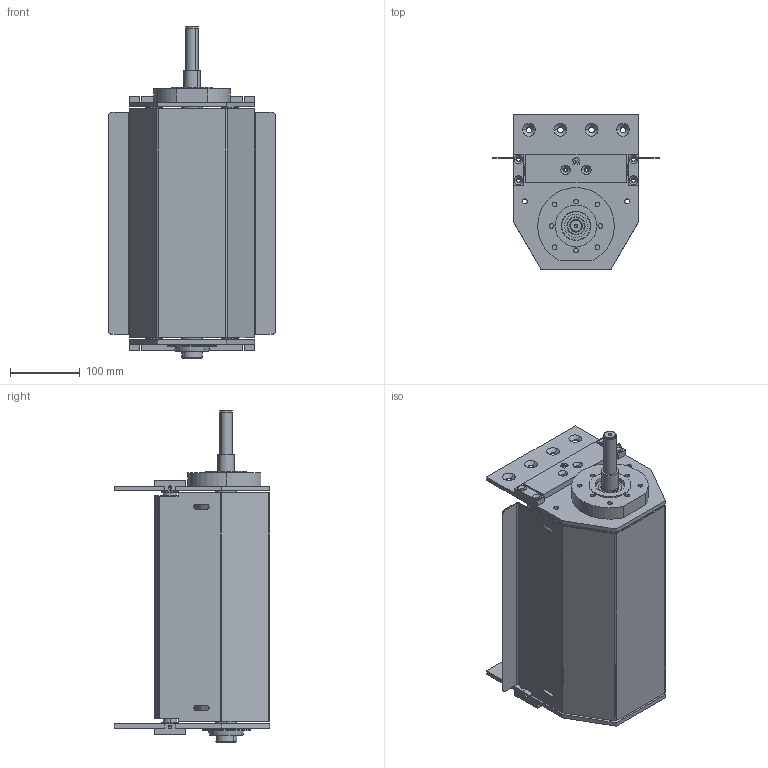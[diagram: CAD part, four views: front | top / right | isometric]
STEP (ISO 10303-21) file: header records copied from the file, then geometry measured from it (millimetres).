
FILE_DESCRIPTION (( 'STEP AP203' ), '1' );
FILE_NAME ('084.095.KCS.44.300.STEP', '2019-07-30T08:18:37', ( '' ), ( '' ), 'SwSTEP 2.0', 'SolidWorks 2018', '' );
FILE_SCHEMA (( 'CONFIG_CONTROL_DESIGN' ));
Length unit declared in the file: millimetre
Products named in the file (18): 084.802.012_Solo centrale; 084.095.KCS.44.300; 084.810.003; 084.802.004-1; 084.802.046; 084.814.002-1; 084.802.003-1; 084.817.019; 084.817.017_Default<A macchina>; 084.802.048; 084.817.020; 084.802.021; CUSCINETTI A SFERE_6004-2RS; 084.812.003; 084.802.020; 084.802.010; 084.802.047; 084.817.018
Assembly tree (31 placements, depth 2):
  084.095.KCS.44.300
    084.802.046
    084.802.047
    084.802.048  x4
    084.817.017_Default<A macchina>
    084.817.019  x2
    084.817.020  x2
    084.802.012_Solo centrale  x2
    084.817.018
    084.802.010
    084.802.021
    084.814.002-1
    084.810.003  x2
    084.802.004-1  x4
    084.802.020
    084.812.003
    084.802.003-1  x2
    CUSCINETTI A SFERE_6004-2RS  x4
Bounding box: 240 x 223 x 477 mm (x, y, z)
Volume: 2465615.8 mm3; surface area: 1189503.9 mm2
Topology: 33 solids, 33 shells, 1038 faces, 2570 edges, 1655 vertices
Faces by surface type: plane 439, cylinder 383, cone 138, torus 68, sphere 10
Entity records: 21863 total; most frequent: DIRECTION 3633, CARTESIAN_POINT 3414, ORIENTED_EDGE 3170, EDGE_CURVE 1585, AXIS2_PLACEMENT_3D 1389, VERTEX_POINT 1022, VECTOR 855, LINE 855
